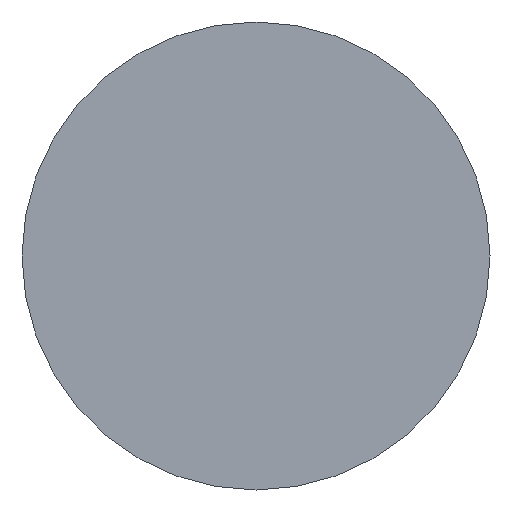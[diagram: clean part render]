
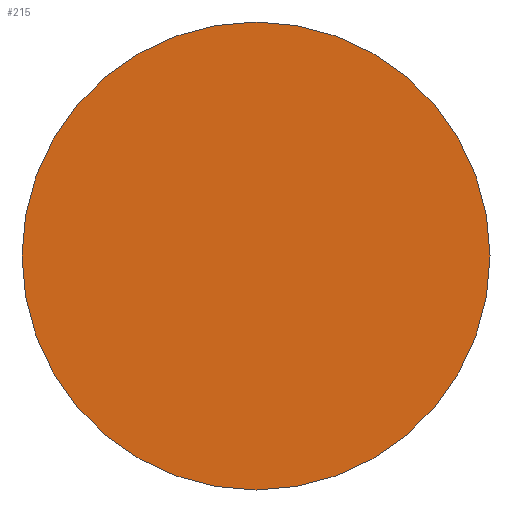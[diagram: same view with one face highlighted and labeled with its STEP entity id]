
A CAD part, left-side view. The second image highlights one B-rep face of the part: STEP entity #215.
In plain terms, the highlighted planar face has unit normal (-1, 0, 0).
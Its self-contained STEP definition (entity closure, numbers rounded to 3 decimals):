
#5 = PLANE ( 'NONE',  #80 ) ;
#9 = EDGE_CURVE ( 'NONE', #246, #17, #243, .T. ) ;
#17 = VERTEX_POINT ( 'NONE', #228 ) ;
#27 = AXIS2_PLACEMENT_3D ( 'NONE', #260, #231, #106 ) ;
#28 = EDGE_CURVE ( 'NONE', #17, #246, #180, .T. ) ;
#80 = AXIS2_PLACEMENT_3D ( 'NONE', #254, #214, #127 ) ;
#106 = DIRECTION ( 'NONE',  ( 0., 1., 0. ) ) ;
#127 = DIRECTION ( 'NONE',  ( 0., -1., 0. ) ) ;
#135 = EDGE_LOOP ( 'NONE', ( #230, #257 ) ) ;
#166 = CARTESIAN_POINT ( 'NONE',  ( 0., 0., 0. ) ) ;
#180 = CIRCLE ( 'NONE', #184, 20. ) ;
#184 = AXIS2_PLACEMENT_3D ( 'NONE', #166, #193, #208 ) ;
#193 = DIRECTION ( 'NONE',  ( 1., 0., 0. ) ) ;
#208 = DIRECTION ( 'NONE',  ( 0., 1., 0. ) ) ;
#214 = DIRECTION ( 'NONE',  ( -1., 0., 0. ) ) ;
#215 = ADVANCED_FACE ( 'NONE', ( #241 ), #5, .T. ) ;
#220 = CARTESIAN_POINT ( 'NONE',  ( 0., 20., 0. ) ) ;
#228 = CARTESIAN_POINT ( 'NONE',  ( 0., -20., 0. ) ) ;
#230 = ORIENTED_EDGE ( 'NONE', *, *, #9, .F. ) ;
#231 = DIRECTION ( 'NONE',  ( 1., 0., 0. ) ) ;
#241 = FACE_OUTER_BOUND ( 'NONE', #135, .T. ) ;
#243 = CIRCLE ( 'NONE', #27, 20. ) ;
#246 = VERTEX_POINT ( 'NONE', #220 ) ;
#254 = CARTESIAN_POINT ( 'NONE',  ( 0., 0., 0. ) ) ;
#257 = ORIENTED_EDGE ( 'NONE', *, *, #28, .F. ) ;
#260 = CARTESIAN_POINT ( 'NONE',  ( 0., 0., 0. ) ) ;
